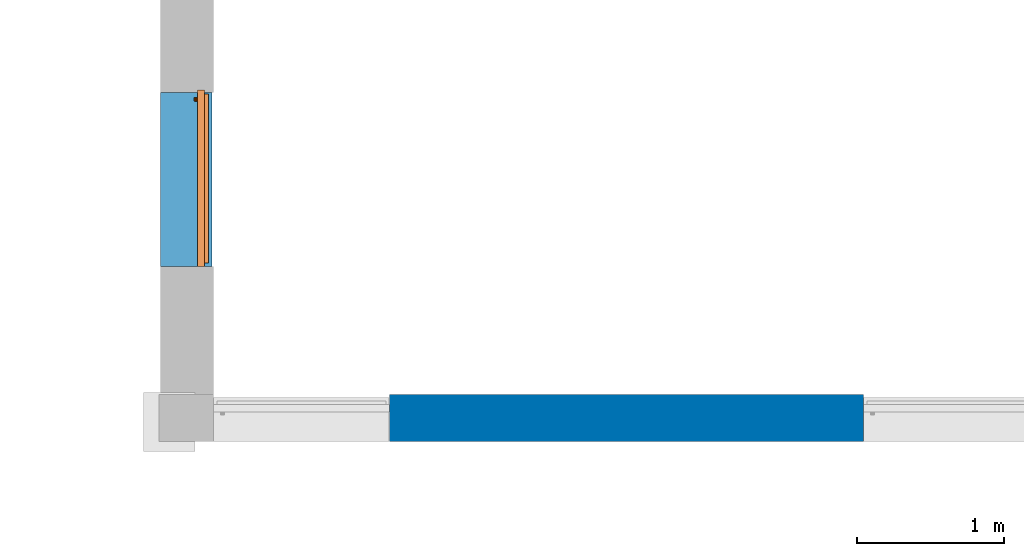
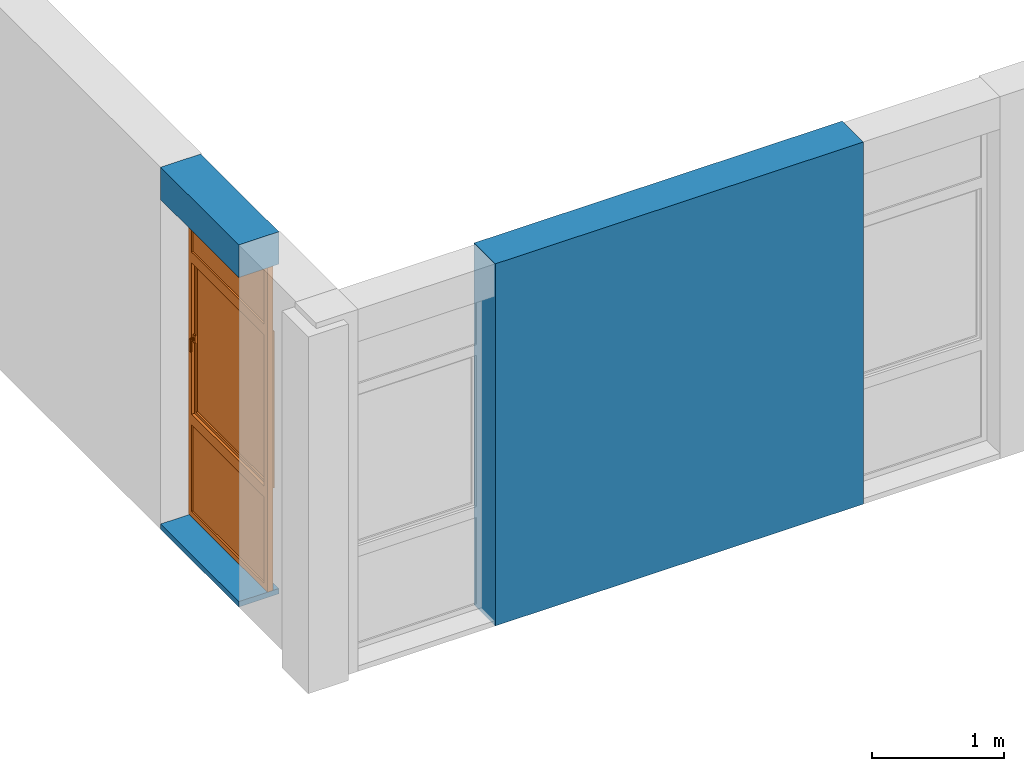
# One storey, part 2 of 11: 2 walls, 1 proxy, 1 opening.
"""IFC2X3 building model written with IfcOpenShell, lengths in millimetres."""

from ifc_helpers import new_model, entity, si_unit, converted_unit, derived_unit, money_unit, direction, frame, origin_with_axes, origin_2d_with_axis, place, context, subcontext, project, spatial, polyline, rectangle, outline, extrude, open_shell, faceted_brep, surface_model, source, transform, mapped, material, layer, layer_set, layer_usage, type_object, element, fill, save


model = new_model("IFC2X3")

# Units and contexts
model_context = context("Model", 3, precision=0.01, world=origin_with_axes(), true_north=direction((0.0, 1.0)))
body_context = subcontext(model_context, "Body", "Model", "MODEL_VIEW")
ifc_project = project(units=[si_unit("LENGTHUNIT", "METRE", prefix="MILLI"), si_unit("AREAUNIT", "SQUARE_METRE"), si_unit("VOLUMEUNIT", "CUBIC_METRE"), converted_unit("PLANEANGLEUNIT", "DEGREE", entity("IfcPlaneAngleMeasure", 0.0174532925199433), si_unit("PLANEANGLEUNIT", "RADIAN"), dimensions=[0, 0, 0, 0, 0, 0, 0]), money_unit("USD"), converted_unit("TIMEUNIT", "Year", entity("IfcTimeMeasure", 31557600.0), si_unit("TIMEUNIT", "SECOND"), dimensions=[0, 0, 1, 0, 0, 0, 0]), si_unit("MASSUNIT", "GRAM", prefix="KILO"), si_unit("THERMODYNAMICTEMPERATUREUNIT", "DEGREE_CELSIUS"), si_unit("LUMINOUSINTENSITYUNIT", "LUMEN"), si_unit("ENERGYUNIT", "JOULE", prefix="MEGA"), derived_unit("THERMALCONDUCTANCEUNIT", [(si_unit("POWERUNIT", "WATT"), 1), (si_unit("LENGTHUNIT", "METRE"), -1), (si_unit("THERMODYNAMICTEMPERATUREUNIT", "KELVIN"), -1)]), derived_unit("SPECIFICHEATCAPACITYUNIT", [(si_unit("ENERGYUNIT", "JOULE"), 1), (si_unit("MASSUNIT", "GRAM", prefix="KILO"), -1), (si_unit("THERMODYNAMICTEMPERATUREUNIT", "KELVIN"), -1)]), derived_unit("MASSDENSITYUNIT", [(si_unit("MASSUNIT", "GRAM", prefix="KILO"), 1), (si_unit("VOLUMEUNIT", "CUBIC_METRE"), -1)])], contexts=[model_context])

# Site, building, storey
site_placement = place(None, origin_with_axes())
site = spatial("IfcSite", under=ifc_project, at=site_placement, Name="Sitio", CompositionType="ELEMENT")
building_placement = place(site_placement, origin_with_axes())
building = spatial("IfcBuilding", under=site, at=building_placement, Name="Construcción", CompositionType="ELEMENT")
storey_placement = place(building_placement, frame((0.0, 0.0, -3650.0), z_axis=(0.0, 0.0, 1.0), x_axis=(1.0, 0.0, 0.0)))
storey = spatial("IfcBuildingStorey", under=building, at=storey_placement, Name="-1. Piso", CompositionType="ELEMENT", Elevation=-3650.0)

# Wall
ifc_material_1 = material(Name="ARQ_CE217_Gero")
ifc_layer_1 = layer(ifc_material_1, 150.0, ventilated="UNKNOWN")
ifc_material_2 = material(Name="ARQ_AI031_Aillament_Poliestireno expandido EPS")
ifc_layer_2 = layer(ifc_material_2, 100.0, ventilated="UNKNOWN")
ifc_material_3 = material(Name="ARQ_CE218_Ceramic")
ifc_layer_3 = layer(ifc_material_3, 50.0, ventilated="UNKNOWN")
ifc_material_4 = material(Name="ARQ_AM246_Arrebossat_De_Guix")
ifc_layer_4 = layer(ifc_material_4, 20.0, ventilated="UNKNOWN")
ifc_layer_set_1 = layer_set([ifc_layer_1, ifc_layer_2, ifc_layer_3, ifc_layer_4], Name="façana pati CR3")
ifc_layer_usage_1 = layer_usage(ifc_layer_set_1, "AXIS2", "POSITIVE", -320.0)
wall_type_1 = type_object("IfcWallType", Name="façana pati CR3 320", PredefinedType="NOTDEFINED")
wall_1_placement = place(storey_placement, frame((-23271.109004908, -12338.97582371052, 0.0), z_axis=(0.0, 0.0, 1.0), x_axis=(-1.0, 0.0, 0.0)))
element("IfcWallStandardCase", 1, at=wall_1_placement, inside=storey, type_object=wall_type_1, material=ifc_layer_usage_1, Name="MS-201", context=body_context, shape_type="SweptSolid", body=[
    extrude(outline(polyline([(0.0, -320.0000000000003), (3221.416870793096, -320.0000000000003), (3221.416870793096, 0.0), (0.0, 0.0), (0.0, -320.0000000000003)])), origin_with_axes(), (0.0, 0.0, 1.0), 3350.0),
])

# Wall, opening, proxy
ifc_layer_5 = layer(ifc_material_4, 20.0, ventilated="UNKNOWN")
ifc_layer_6 = layer(ifc_material_1, 150.0, ventilated="UNKNOWN")
ifc_layer_7 = layer(ifc_material_2, 110.0, ventilated="UNKNOWN")
ifc_layer_8 = layer(ifc_material_3, 50.0, ventilated="UNKNOWN")
ifc_layer_9 = layer(ifc_material_4, 20.0, ventilated="UNKNOWN")
ifc_layer_set_2 = layer_set([ifc_layer_5, ifc_layer_6, ifc_layer_7, ifc_layer_8, ifc_layer_9], Name="façana pati CR4 (Ampit)")
ifc_layer_usage_2 = layer_usage(ifc_layer_set_2, "AXIS2", "POSITIVE", -350.0)
wall_type_2 = type_object("IfcWallType", Name="façana pati CR4 (Ampit) 350", PredefinedType="NOTDEFINED")
wall_2_placement = place(storey_placement, frame((-28050.84818028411, -11150.97582371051, 0.0), z_axis=(0.0, 0.0, 1.0), x_axis=(0.0, 1.0, 0.0)))
wall_2 = element("IfcWallStandardCase", 2, at=wall_2_placement, inside=storey, type_object=wall_type_2, material=ifc_layer_usage_2, Name="MS-200", context=body_context, shape_type="SweptSolid", body=[
    extrude(outline(polyline([(0.0, -350.0000000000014), (1186.000000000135, -350.0000000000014), (1186.000000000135, 0.0), (0.0, 0.0), (0.0, -350.0000000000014)])), origin_with_axes(), (0.0, 0.0, 1.0), 3350.0),
])
opening_placement = place(wall_2_placement, frame((600.0000000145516, 0.0, 49.99999999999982), z_axis=(0.0, 0.0, 1.0), x_axis=(1.0, 0.0, 0.0)))
opening = element("IfcOpeningElement", 3, at=opening_placement, cuts=wall_2, Name="V - 008", context=body_context, shape_type="SweptSolid", body=[
    extrude(rectangle(XDim=1200.000000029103, YDim=3000.0, at=origin_2d_with_axis()), frame((0.0, -300.0000000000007, 1500.0), z_axis=(0.0, -1.0, 0.0), x_axis=(-1.0, 0.0, 0.0)), (0.0, 0.0, -1.0), 650.0000000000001),
    extrude(rectangle(XDim=1200.000000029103, YDim=3000.0, at=origin_2d_with_axis()), frame((0.0, -300.0000000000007, 1500.0), z_axis=(0.0, 1.0, 0.0), x_axis=(-1.0, 0.0, 0.0)), (0.0, 0.0, -1.0), 400.0),
])
building_element_proxy_type = type_object("IfcBuildingElementProxyType", Name="Ventana Vertical Multi-Faja 27", PredefinedType="NOTDEFINED")
shared_shape = source(origin_with_axes(), body_context, "Body", "SurfaceModel", [
    faceted_brep([(-575.0000000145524, 0.0, 925.0), (-550.0000000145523, 0.0, 925.0), (-550.0000000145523, 0.0, 850.0), (-550.0000000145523, 0.0, 50.00000000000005), (-600.0000000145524, 0.0, 50.00000000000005), (-600.0000000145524, 0.0, 2950.0), (-550.0000000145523, 0.0, 2950.0), (-550.0000000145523, 0.0, 2450.0), (-550.0000000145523, 0.0, 2375.0), (-575.0000000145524, 0.0, 2375.0), (-575.0000000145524, -25.00000000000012, 925.0), (-550.0000000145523, -25.00000000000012, 925.0), (-550.0000000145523, -25.00000000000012, 950.0000000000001), (-550.0000000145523, -50.00000000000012, 950.0000000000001), (-550.0000000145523, -50.00000000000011, 850.0), (-550.0000000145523, -50.00000000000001, 50.00000000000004), (-600.0000000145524, -50.00000000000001, 50.00000000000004), (-600.0000000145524, -50.00000000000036, 2950.0), (-550.0000000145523, -50.00000000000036, 2950.0), (-550.0000000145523, -50.0000000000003, 2450.0), (-550.0000000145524, -25.00000000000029, 2375.0), (-550.0000000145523, -50.00000000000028, 2350.0), (-550.0000000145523, -25.00000000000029, 2350.0), (-575.0000000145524, -25.00000000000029, 2375.0)], [[[0, 1, 2, 3, 4, 5, 6, 7, 8, 9]], [[0, 10, 11, 1]], [[11, 12, 13, 14, 2, 1]], [[3, 2, 14, 15]], [[4, 3, 15, 16]], [[5, 4, 16, 17]], [[6, 5, 17, 18]], [[7, 6, 18, 19]], [[20, 8, 7, 19, 21, 22]], [[20, 23, 9, 8]], [[9, 23, 10, 0]], [[22, 12, 11, 10, 23, 20]], [[22, 21, 13, 12]], [[17, 16, 15, 14, 13, 21, 19, 18]]]),
    faceted_brep([(575.0000000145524, 0.0, 925.0), (575.0000000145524, 0.0, 2375.0), (550.0000000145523, 0.0, 2375.0), (550.0000000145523, 0.0, 2450.0), (550.0000000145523, 0.0, 2950.0), (600.0000000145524, 0.0, 2950.0), (600.0000000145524, 0.0, 50.00000000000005), (550.0000000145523, 0.0, 50.00000000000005), (550.0000000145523, 0.0, 850.0), (550.0000000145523, 0.0, 925.0), (575.0000000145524, -25.00000000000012, 925.0), (575.0000000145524, -25.00000000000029, 2375.0), (550.0000000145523, -25.00000000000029, 2375.0), (550.0000000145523, -25.00000000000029, 2350.0), (550.0000000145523, -50.00000000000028, 2350.0), (550.0000000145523, -50.0000000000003, 2450.0), (550.0000000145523, -50.00000000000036, 2950.0), (600.0000000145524, -50.00000000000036, 2950.0), (600.0000000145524, -50.00000000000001, 50.00000000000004), (550.0000000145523, -50.00000000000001, 50.00000000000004), (550.0000000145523, -50.00000000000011, 850.0), (550.0000000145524, -25.00000000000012, 925.0), (550.0000000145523, -50.00000000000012, 950.0000000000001), (550.0000000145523, -25.00000000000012, 950.0000000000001)], [[[0, 1, 2, 3, 4, 5, 6, 7, 8, 9]], [[0, 10, 11, 1]], [[1, 11, 12, 2]], [[12, 13, 14, 15, 3, 2]], [[4, 3, 15, 16]], [[5, 4, 16, 17]], [[6, 5, 17, 18]], [[7, 6, 18, 19]], [[8, 7, 19, 20]], [[21, 9, 8, 20, 22, 23]], [[9, 21, 10, 0]], [[12, 11, 10, 21, 23, 13]], [[23, 22, 14, 13]], [[14, 22, 20, 19, 18, 17, 16, 15]]]),
    faceted_brep([(-550.0000000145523, -25.00000000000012, 950.0000000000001), (-550.0000000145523, -50.00000000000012, 950.0000000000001), (550.0000000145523, -50.00000000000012, 950.0000000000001), (550.0000000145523, -25.00000000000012, 950.0000000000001), (-550.0000000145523, -25.00000000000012, 925.0), (-550.0000000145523, 0.0, 925.0), (-550.0000000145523, 0.0, 850.0), (-550.0000000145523, -50.00000000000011, 850.0), (550.0000000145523, -50.00000000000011, 850.0), (550.0000000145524, -25.00000000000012, 925.0), (550.0000000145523, 0.0, 850.0), (550.0000000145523, 0.0, 925.0)], [[[0, 1, 2, 3]], [[4, 5, 6, 7, 1, 0]], [[1, 7, 8, 2]], [[9, 3, 2, 8, 10, 11]], [[9, 4, 0, 3]], [[5, 4, 9, 11]], [[11, 10, 6, 5]], [[6, 10, 8, 7]]]),
    faceted_brep([(-550.0000000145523, 0.0, 2375.0), (-550.0000000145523, 0.0, 2450.0), (550.0000000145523, 0.0, 2450.0), (550.0000000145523, 0.0, 2375.0), (-550.0000000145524, -25.00000000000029, 2375.0), (-550.0000000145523, -25.00000000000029, 2350.0), (-550.0000000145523, -50.00000000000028, 2350.0), (-550.0000000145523, -50.0000000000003, 2450.0), (550.0000000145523, -50.0000000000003, 2450.0), (550.0000000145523, -25.00000000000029, 2375.0), (550.0000000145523, -50.00000000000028, 2350.0), (550.0000000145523, -25.00000000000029, 2350.0)], [[[0, 1, 2, 3]], [[4, 5, 6, 7, 1, 0]], [[2, 1, 7, 8]], [[9, 3, 2, 8, 10, 11]], [[9, 4, 0, 3]], [[11, 5, 4, 9]], [[11, 10, 6, 5]], [[7, 6, 10, 8]]]),
    faceted_brep([(550.0000000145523, -50.00000000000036, 2950.0), (550.0000000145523, 0.0, 2950.0), (600.0000000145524, 0.0, 2950.0), (600.0000000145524, -50.00000000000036, 2950.0), (-550.0000000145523, -50.00000000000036, 2950.0), (-550.0000000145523, 0.0, 2950.0), (-600.0000000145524, 0.0, 2950.0), (-600.0000000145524, 0.0, 3000.0), (600.0000000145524, 0.0, 3000.0), (600.0000000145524, -50.00000000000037, 3000.0), (-600.0000000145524, -50.00000000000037, 3000.0), (-600.0000000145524, -50.00000000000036, 2950.0)], [[[0, 1, 2, 3]], [[4, 5, 1, 0]], [[1, 5, 6, 7, 8, 2]], [[3, 2, 8, 9]], [[0, 3, 9, 10, 11, 4]], [[11, 6, 5, 4]], [[10, 7, 6, 11]], [[9, 8, 7, 10]]]),
    faceted_brep([(-550.0000000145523, -50.00000000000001, 50.0), (-550.0000000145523, 0.0, 50.00000000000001), (-600.0000000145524, 0.0, 50.00000000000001), (-600.0000000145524, -50.00000000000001, 50.0), (550.0000000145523, -50.00000000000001, 50.0), (550.0000000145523, 0.0, 50.00000000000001), (600.0000000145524, 0.0, 50.00000000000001), (600.0000000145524, 0.0, 0.0), (-600.0000000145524, 0.0, 0.0), (-600.0000000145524, -50.0, 0.0), (600.0000000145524, -50.0, 0.0), (600.0000000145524, -50.00000000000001, 50.0)], [[[0, 1, 2, 3]], [[4, 5, 1, 0]], [[1, 5, 6, 7, 8, 2]], [[3, 2, 8, 9]], [[0, 3, 9, 10, 11, 4]], [[11, 6, 5, 4]], [[10, 7, 6, 11]], [[9, 8, 7, 10]]]),
    surface_model("IfcShellBasedSurfaceModel", [(-550.0000000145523, -35.0, 49.99999999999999), (550.0000000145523, -35.0, 49.99999999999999), (550.0000000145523, -35.0000000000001, 850.0), (-550.0000000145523, -35.0000000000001, 850.0)], [open_shell([[[0, 1, 2, 3]]])]),
    surface_model("IfcShellBasedSurfaceModel", [(-550.0000000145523, -15.0, 49.99999999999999), (-550.0000000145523, -15.0000000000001, 850.0), (550.0000000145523, -15.0000000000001, 850.0), (550.0000000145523, -15.0, 49.99999999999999)], [open_shell([[[0, 1, 2, 3]]])]),
    faceted_brep([(-521.5000000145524, -25.00000000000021, 1677.0), (-522.839745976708, -25.00000000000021, 1682.0), (-522.839745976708, -37.00000000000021, 1682.0), (-521.5000000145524, -37.00000000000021, 1677.0), (-521.5000000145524, -25.0000000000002, 1623.0), (-522.839745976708, -25.0000000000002, 1618.0), (-526.5000000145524, -25.0000000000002, 1614.339745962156), (-531.5000000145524, -25.0000000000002, 1613.0), (-543.5000000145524, -25.0000000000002, 1613.0), (-548.5000000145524, -25.0000000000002, 1614.339745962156), (-552.1602540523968, -25.0000000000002, 1618.0), (-553.5000000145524, -25.0000000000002, 1623.0), (-553.5000000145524, -25.00000000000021, 1677.0), (-552.1602540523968, -25.00000000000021, 1682.0), (-548.5000000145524, -25.00000000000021, 1685.660254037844), (-543.5000000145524, -25.00000000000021, 1687.0), (-531.5000000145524, -25.00000000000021, 1687.0), (-526.5000000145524, -25.00000000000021, 1685.660254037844), (-526.5000000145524, -37.00000000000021, 1685.660254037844), (-531.5000000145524, -37.00000000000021, 1687.0), (-543.5000000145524, -37.00000000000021, 1687.0), (-548.5000000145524, -37.00000000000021, 1685.660254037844), (-552.1602540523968, -37.00000000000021, 1682.0), (-553.5000000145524, -37.00000000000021, 1677.0), (-553.5000000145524, -37.0000000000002, 1623.0), (-552.1602540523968, -37.0000000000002, 1618.0), (-548.5000000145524, -37.0000000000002, 1614.339745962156), (-543.5000000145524, -37.0000000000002, 1613.0), (-531.5000000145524, -37.0000000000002, 1613.0), (-526.5000000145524, -37.0000000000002, 1614.339745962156), (-522.839745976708, -37.0000000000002, 1618.0), (-521.5000000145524, -37.0000000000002, 1623.0)], [[[0, 1, 2, 3]], [[0, 4, 5, 6, 7, 8, 9, 10, 11, 12, 13, 14, 15, 16, 17, 1]], [[1, 17, 18, 2]], [[3, 2, 18, 19, 20, 21, 22, 23, 24, 25, 26, 27, 28, 29, 30, 31]], [[4, 0, 3, 31]], [[5, 4, 31, 30]], [[6, 5, 30, 29]], [[7, 6, 29, 28]], [[8, 7, 28, 27]], [[9, 8, 27, 26]], [[10, 9, 26, 25]], [[11, 10, 25, 24]], [[12, 11, 24, 23]], [[13, 12, 23, 22]], [[14, 13, 22, 21]], [[15, 14, 21, 20]], [[16, 15, 20, 19]], [[17, 16, 19, 18]]]),
    faceted_brep([(-537.5000000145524, -37.0000000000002, 1663.5), (-544.2500000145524, -37.0000000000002, 1661.69134295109), (-544.2500000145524, -61.00000000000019, 1661.69134295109), (-537.5000000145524, -61.00000000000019, 1663.5), (-530.7500000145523, -37.0000000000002, 1661.69134295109), (-525.8086570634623, -37.0000000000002, 1656.75), (-524.0000000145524, -37.0000000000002, 1650.0), (-525.8086570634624, -37.0000000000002, 1643.25), (-530.7500000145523, -37.0000000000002, 1638.30865704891), (-537.5000000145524, -37.0000000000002, 1636.5), (-544.2500000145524, -37.0000000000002, 1638.30865704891), (-549.1913429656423, -37.0000000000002, 1643.25), (-551.0000000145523, -37.0000000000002, 1650.0), (-549.1913429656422, -37.0000000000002, 1656.75), (-549.1913429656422, -61.00000000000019, 1656.75), (-551.0000000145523, -61.00000000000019, 1650.0), (-549.1913429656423, -61.00000000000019, 1643.25), (-544.2500000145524, -61.00000000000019, 1638.30865704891), (-537.5000000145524, -61.00000000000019, 1636.5), (-530.7500000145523, -61.00000000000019, 1638.30865704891), (-525.8086570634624, -61.00000000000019, 1643.25), (-524.0000000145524, -61.00000000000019, 1650.0), (-525.8086570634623, -61.00000000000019, 1656.75), (-530.7500000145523, -61.00000000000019, 1661.69134295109)], [[[0, 1, 2, 3]], [[0, 4, 5, 6, 7, 8, 9, 10, 11, 12, 13, 1]], [[1, 13, 14, 2]], [[3, 2, 14, 15, 16, 17, 18, 19, 20, 21, 22, 23]], [[4, 0, 3, 23]], [[5, 4, 23, 22]], [[6, 5, 22, 21]], [[7, 6, 21, 20]], [[8, 7, 20, 19]], [[9, 8, 19, 18]], [[10, 9, 18, 17]], [[11, 10, 17, 16]], [[12, 11, 16, 15]], [[13, 12, 15, 14]]]),
    faceted_brep([(-526.0000000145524, -61.00000000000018, 1543.0), (-537.5000000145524, -61.00000000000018, 1540.0), (-549.0000000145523, -61.00000000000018, 1543.0), (-551.0000000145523, -61.00000000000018, 1546.0), (-551.0000000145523, -61.00000000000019, 1650.0), (-549.1913429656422, -61.00000000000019, 1656.75), (-544.2500000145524, -61.00000000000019, 1661.69134295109), (-537.5000000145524, -61.00000000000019, 1663.5), (-530.7500000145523, -61.00000000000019, 1661.69134295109), (-525.8086570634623, -61.00000000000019, 1656.75), (-524.0000000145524, -61.00000000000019, 1650.0), (-524.0000000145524, -61.00000000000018, 1546.0), (-525.9999999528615, -69.00000000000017, 1543.000000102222), (-537.4999999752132, -69.00000000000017, 1539.999999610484), (-548.9999999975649, -69.00000000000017, 1543.000000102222), (-551.0000003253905, -69.00000000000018, 1545.999999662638), (-551.0000003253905, -69.0000000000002, 1649.99999994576), (-549.1913430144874, -69.0000000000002, 1656.749999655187), (-544.2499996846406, -69.0000000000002, 1661.691342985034), (-537.4999999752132, -69.0000000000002, 1663.500000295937), (-530.7500002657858, -69.0000000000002, 1661.691342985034), (-525.808656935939, -69.0000000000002, 1656.749999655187), (-523.9999996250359, -69.0000000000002, 1649.99999994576), (-523.9999996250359, -69.00000000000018, 1545.999999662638), (-527.8625374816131, -71.99999956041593, 1545.61451963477), (-537.4999999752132, -71.99999956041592, 1543.100398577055), (-547.1374624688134, -71.99999956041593, 1545.61451963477), (-548.0000007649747, -71.99999956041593, 1546.908326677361), (-548.0000007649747, -71.99999956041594, 1649.605042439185), (-546.5016170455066, -71.99999956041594, 1655.197085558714), (-542.6970855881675, -71.99999956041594, 1659.001617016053), (-537.4999999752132, -71.99999956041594, 1660.394172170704), (-532.302914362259, -71.99999956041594, 1659.001617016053), (-528.4983829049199, -71.99999956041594, 1655.197085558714), (-526.9999991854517, -71.99999956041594, 1649.605042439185), (-526.9999991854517, -71.99999956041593, 1546.908326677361)], [[[0, 1, 2, 3, 4, 5, 6, 7, 8, 9, 10, 11]], [[1, 0, 12, 13]], [[2, 1, 13, 14]], [[3, 2, 14, 15]], [[4, 3, 15, 16]], [[5, 4, 16, 17]], [[6, 5, 17, 18]], [[7, 6, 18, 19]], [[8, 7, 19, 20]], [[9, 8, 20, 21]], [[10, 9, 21, 22]], [[11, 10, 22, 23]], [[0, 11, 23, 12]], [[13, 12, 24, 25]], [[14, 13, 25, 26]], [[15, 14, 26, 27]], [[16, 15, 27, 28]], [[17, 16, 28, 29]], [[18, 17, 29, 30]], [[19, 18, 30, 31]], [[20, 19, 31, 32]], [[21, 20, 32, 33]], [[22, 21, 33, 34]], [[23, 22, 34, 35]], [[12, 23, 35, 24]], [[26, 25, 24, 35, 34, 33, 32, 31, 30, 29, 28, 27]]]),
    faceted_brep([(-525.0000000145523, -25.00000000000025, 2325.0), (-525.0000000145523, 24.99999999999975, 2325.0), (-575.0000000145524, 24.99999999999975, 2325.0), (-575.0000000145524, -25.00000000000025, 2325.0), (-525.0000000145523, -25.00000000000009, 975.0000000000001), (-525.0000000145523, 24.99999999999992, 975.0000000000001), (-575.0000000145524, 24.99999999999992, 975.0000000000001), (-575.0000000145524, -25.00000000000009, 975.0000000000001)], [[[0, 1, 2, 3]], [[4, 5, 1, 0]], [[1, 5, 6, 2]], [[3, 2, 6, 7]], [[0, 3, 7, 4]], [[7, 6, 5, 4]]]),
    faceted_brep([(525.0000000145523, -25.00000000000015, 975.0000000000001), (525.0000000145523, 24.99999999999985, 975.0000000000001), (575.0000000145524, 24.99999999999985, 975.0000000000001), (575.0000000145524, -25.00000000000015, 975.0000000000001), (525.0000000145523, -25.00000000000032, 2325.0), (525.0000000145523, 24.99999999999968, 2325.0), (575.0000000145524, 24.99999999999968, 2325.0), (575.0000000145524, -25.00000000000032, 2325.0)], [[[0, 1, 2, 3]], [[4, 5, 1, 0]], [[1, 5, 6, 2]], [[3, 2, 6, 7]], [[0, 3, 7, 4]], [[7, 6, 5, 4]]]),
    faceted_brep([(575.0000000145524, -25.00000000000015, 925.0), (575.0000000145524, 24.99999999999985, 925.0), (575.0000000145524, 24.99999999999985, 975.0000000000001), (575.0000000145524, -25.00000000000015, 975.0000000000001), (-575.0000000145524, -25.00000000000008, 925.0), (-575.0000000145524, 24.99999999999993, 925.0), (-575.0000000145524, 24.99999999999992, 975.0000000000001), (-525.0000000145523, 24.99999999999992, 975.0000000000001), (525.0000000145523, 24.99999999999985, 975.0000000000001), (525.0000000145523, -25.00000000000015, 975.0000000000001), (-525.0000000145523, -25.00000000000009, 975.0000000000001), (-575.0000000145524, -25.00000000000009, 975.0000000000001)], [[[0, 1, 2, 3]], [[4, 5, 1, 0]], [[1, 5, 6, 7, 8, 2]], [[3, 2, 8, 9]], [[0, 3, 9, 10, 11, 4]], [[11, 6, 5, 4]], [[10, 7, 6, 11]], [[9, 8, 7, 10]]]),
    faceted_brep([(-575.0000000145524, -25.00000000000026, 2375.0), (-575.0000000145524, 24.99999999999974, 2375.0), (-575.0000000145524, 24.99999999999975, 2325.0), (-575.0000000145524, -25.00000000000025, 2325.0), (575.0000000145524, -25.00000000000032, 2375.0), (575.0000000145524, 24.99999999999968, 2375.0), (575.0000000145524, 24.99999999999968, 2325.0), (525.0000000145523, 24.99999999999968, 2325.0), (-525.0000000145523, 24.99999999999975, 2325.0), (-525.0000000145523, -25.00000000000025, 2325.0), (525.0000000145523, -25.00000000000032, 2325.0), (575.0000000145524, -25.00000000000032, 2325.0)], [[[0, 1, 2, 3]], [[4, 5, 1, 0]], [[1, 5, 6, 7, 8, 2]], [[3, 2, 8, 9]], [[0, 3, 9, 10, 11, 4]], [[11, 6, 5, 4]], [[10, 7, 6, 11]], [[9, 8, 7, 10]]]),
    surface_model("IfcShellBasedSurfaceModel", [(-525.0000000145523, -10.00000000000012, 975.0000000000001), (525.0000000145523, -10.00000000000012, 975.0000000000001), (525.0000000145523, -10.00000000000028, 2325.0), (-525.0000000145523, -10.00000000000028, 2325.0)], [open_shell([[[0, 1, 2, 3]]])]),
    surface_model("IfcShellBasedSurfaceModel", [(-525.0000000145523, 9.999999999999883, 975.0000000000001), (-525.0000000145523, 9.99999999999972, 2325.0), (525.0000000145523, 9.99999999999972, 2325.0), (525.0000000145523, 9.999999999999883, 975.0000000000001)], [open_shell([[[0, 1, 2, 3]]])]),
    surface_model("IfcShellBasedSurfaceModel", [(-550.0000000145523, -35.0000000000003, 2450.0), (550.0000000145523, -35.0000000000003, 2450.0), (550.0000000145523, -35.00000000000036, 2950.0), (-550.0000000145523, -35.00000000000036, 2950.0)], [open_shell([[[0, 1, 2, 3]]])]),
    surface_model("IfcShellBasedSurfaceModel", [(-550.0000000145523, -15.0000000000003, 2450.0), (-550.0000000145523, -15.00000000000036, 2950.0), (550.0000000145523, -15.00000000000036, 2950.0), (550.0000000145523, -15.0000000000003, 2450.0)], [open_shell([[[0, 1, 2, 3]]])]),
])
proxy_placement = place(opening_placement, frame((600.0000000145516, 0.0, 0.0), z_axis=(0.0, 0.0, 1.0), x_axis=(-1.0, 0.0, 0.0)))
proxy = element("IfcBuildingElementProxy", 4, at=proxy_placement, inside=storey, type_object=building_element_proxy_type, Name="V - 008", context=body_context, shape_type="MappedRepresentation", body=[
    mapped(shared_shape, transform((600.0000000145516, 300.0000000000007, 0.0))),
])
fill(opening, proxy)

save(model, "model.ifc")
